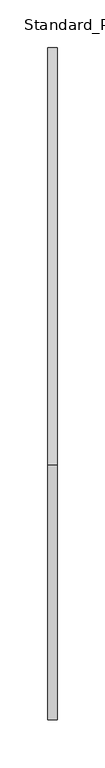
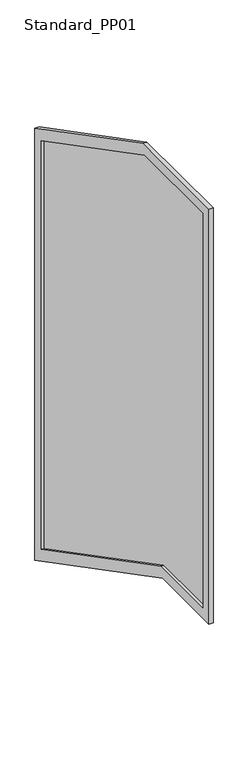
"""IFC4 building model written with IfcOpenShell, lengths in millimetres: railing geometry, Baluster-Landing-Panel-VIVA-STRUC-Lower : Standard_PP01."""

from ifc_helpers import new_model, si_unit, frame, origin, place, context, project, spatial, polyline, outline, extrude, source, transform, mapped, element, save


def standard_pp01_cf85937b(model_context):
    return source(origin(), model_context, "Body", "SweptSolid", [
        extrude(outline(polyline([(-508.8760777, -65.0027399), (-676.4363344, -65.0027399), (-676.4363344, 906.145), (-441.4187834, 906.145), (-25.4, 689.579329), (-25.4, -316.6844557), (-508.8760777, -65.0027399)])), frame((14.2584857, 0.0, 0.0), z_axis=(1.0, 0.0, 0.0), x_axis=(0.0, 1.0, 0.0)), (0.0, 0.0, 1.0), 2.9972),
        extrude(outline(polyline([(0.0, -358.5423602), (-515.0914182, -90.4027399), (-701.8363344, -90.4027399), (-701.8363344, 931.545), (-435.2034429, 931.545), (0.0, 704.9924273), (0.0, -358.5423602)]), holes=[polyline([(-676.4363344, 906.145), (-676.4363344, -65.0027399), (-508.8760777, -65.0027399), (-25.4, -316.6844557), (-25.4, 689.579329), (-441.4187834, 906.145), (-676.4363344, 906.145)])]), frame((7.6036857, 0.0, 0.0), z_axis=(1.0, 0.0, 0.0), x_axis=(0.0, 1.0, 0.0)), (0.0, 0.0, 1.0), 9.652),
    ])


if __name__ == "__main__":
    model = new_model("IFC4")
    model_context = context("Model", 3, world=origin())
    ifc_project = project(units=[si_unit("LENGTHUNIT", "METRE", prefix="MILLI")], contexts=[model_context])
    site = spatial("IfcSite", under=ifc_project)
    building = spatial("IfcBuilding", under=site)
    placement = place(None, origin())
    standard_pp01_shape = standard_pp01_cf85937b(model_context)
    element("IfcRailing", 1, ObjectType="Baluster-Landing-Panel-VIVA-STRUC-Lower : Standard_PP01", at=placement, inside=building, context=model_context, shape_type="MappedRepresentation", body=[
        mapped(standard_pp01_shape, transform((0.0, 0.0, 0.0), x_axis=(1.0, 0.0, 0.0), y_axis=(0.0, 1.0, 0.0), z_axis=(0.0, 0.0, 1.0))),
    ])
    save(model, "model.ifc")
